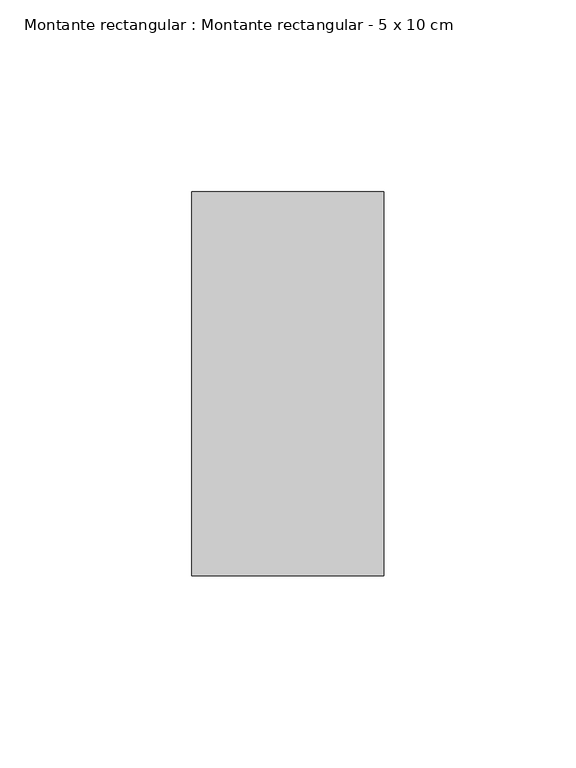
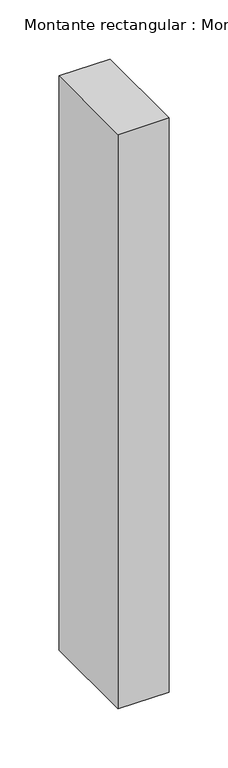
"""IFC4 building model written with IfcOpenShell, lengths in millimetres: member geometry, Montante rectangular : Montante rectangular - 5 x 10 cm."""

import ifcopenshell
import ifcopenshell.guid

model = None  # the IFC model being written
_history = None  # IfcOwnerHistory: only IFC2X3 demands one
_inside = {}  # id of a spatial element -> (the spatial element, [elements in it])
_under = {}  # id of a project, library or spatial element -> (it, [spatial elements below it])
_declared = {}  # id of a project -> (the project, [libraries it declares])
_typed = {}  # id of a type object -> (the type object, [elements of that type])
_made_of = {}  # id of a material, layer set ... -> (it, [elements and type objects made of it])


def new_model(schema):
    """Start an empty IFC model of exactly this schema.

    Asked for "IFC4X3", IfcOpenShell would pick the latest addendum, in which some entities
    have other attributes; the version numbers below select the first issue.
    IFC2X3 requires an IfcOwnerHistory on every rooted entity: one is made here for all.
    """
    global model, _history
    if schema == "IFC4X3":
        model = ifcopenshell.file(schema_version=(4, 3, 0, 0))
    else:
        model = ifcopenshell.file(schema=schema)
    _inside.clear()
    _under.clear()
    _declared.clear()
    _typed.clear()
    _made_of.clear()
    _history = None
    if model.schema == "IFC2X3":
        org = make("IfcOrganization", Name="unknown")
        user = make(
            "IfcPersonAndOrganization",
            ThePerson=make("IfcPerson", FamilyName="unknown"),
            TheOrganization=org,
        )
        app = make(
            "IfcApplication",
            ApplicationDeveloper=org,
            Version="unknown",
            ApplicationFullName="unknown",
            ApplicationIdentifier="unknown",
        )
        _history = make(
            "IfcOwnerHistory",
            OwningUser=user,
            OwningApplication=app,
            ChangeAction="ADDED",
            CreationDate=0,
        )
    return model


def make(cls, **values):
    """One entity of the class cls with the attributes given. An attribute that is None is left unset."""
    return model.create_entity(
        cls, **{name: value for name, value in values.items() if value is not None}
    )


def rooted(cls, **values):
    """An entity with a GlobalId (a new one), such as an element, a storey or a relation."""
    return make(cls, GlobalId=ifcopenshell.guid.new(), OwnerHistory=_history, **values)


def si_unit(unit_type, name, prefix=None):
    """IfcSIUnit, for example si_unit("LENGTHUNIT", "METRE", prefix="MILLI")."""
    return make("IfcSIUnit", UnitType=unit_type, Prefix=prefix, Name=name)


def assignment(units):
    """IfcUnitAssignment: the units of a project."""
    return None if units is None else make("IfcUnitAssignment", Units=units)


def point(xyz):
    """IfcCartesianPoint."""
    return None if xyz is None else make("IfcCartesianPoint", Coordinates=xyz)


def direction(xyz):
    """IfcDirection."""
    return None if xyz is None else make("IfcDirection", DirectionRatios=xyz)


def frame(location, z_axis=None, x_axis=None):
    """IfcAxis2Placement3D, a coordinate frame: its origin and axes. An axis left out is left unset."""
    return make(
        "IfcAxis2Placement3D",
        Location=point(location),
        Axis=direction(z_axis),
        RefDirection=direction(x_axis),
    )


def origin():
    """The frame at (0, 0, 0) with its axes left unset."""
    return frame((0.0, 0.0, 0.0))


def place(relative_to, where):
    """IfcLocalPlacement: puts the frame where relative to a parent placement (None: the world)."""
    return make(
        "IfcLocalPlacement", PlacementRelTo=relative_to, RelativePlacement=where
    )


def context(
    kind, dimensions, precision=None, world=None, true_north=None, identifier=None
):
    """IfcGeometricRepresentationContext, for example the 3D "Model" context."""
    return make(
        "IfcGeometricRepresentationContext",
        ContextIdentifier=identifier,
        ContextType=kind,
        CoordinateSpaceDimension=dimensions,
        Precision=precision,
        WorldCoordinateSystem=world,
        TrueNorth=true_north,
    )


def project(units=None, contexts=None):
    """IfcProject with its units and contexts."""
    return rooted(
        "IfcProject",
        Name="project",
        RepresentationContexts=contexts,
        UnitsInContext=assignment(units),
    )


def spatial(cls, under=None, at=None, **own):
    """A site, building, storey or space (cls), placed at a placement, below another one or the project."""
    s = rooted(cls, ObjectPlacement=at, **own)
    if under is not None:
        _under.setdefault(under.id(), (under, []))[1].append(s)
    return s


def polyline(points):
    """IfcPolyline through the points."""
    return make("IfcPolyline", Points=[point(p) for p in points])


def outline(outer, holes=None, kind="AREA"):
    """IfcArbitraryClosedProfileDef: a profile drawn as a closed curve; with holes, ...WithVoids."""
    if holes is None:
        return make("IfcArbitraryClosedProfileDef", ProfileType=kind, OuterCurve=outer)
    return make(
        "IfcArbitraryProfileDefWithVoids",
        ProfileType=kind,
        OuterCurve=outer,
        InnerCurves=holes,
    )


def extrude(swept, where, along, depth):
    """IfcExtrudedAreaSolid: the profile swept, set in the frame where, extruded along a direction by depth."""
    return make(
        "IfcExtrudedAreaSolid",
        SweptArea=swept,
        Position=where,
        ExtrudedDirection=direction(along),
        Depth=depth,
    )


def shape(context_of_items, identifier, shape_type, items):
    """IfcShapeRepresentation: the items that make up one representation, for example the "Body"."""
    return make(
        "IfcShapeRepresentation",
        ContextOfItems=context_of_items,
        RepresentationIdentifier=identifier,
        RepresentationType=shape_type,
        Items=items,
    )


def source(mapping_origin, context_of_items, identifier, shape_type, items):
    """IfcRepresentationMap: a shape defined once, which mapped items show again and again."""
    return make(
        "IfcRepresentationMap",
        MappingOrigin=mapping_origin,
        MappedRepresentation=shape(context_of_items, identifier, shape_type, items),
    )


def transform(
    local_origin,
    x_axis=None,
    y_axis=None,
    z_axis=None,
    scale=None,
    scale2=None,
    scale3=None,
    uniform=True,
):
    """IfcCartesianTransformationOperator3D, or its non-uniform kind. x_axis, y_axis, z_axis: its Axis1, 2, 3."""
    if uniform:
        return make(
            "IfcCartesianTransformationOperator3D",
            Axis1=direction(x_axis),
            Axis2=direction(y_axis),
            LocalOrigin=point(local_origin),
            Scale=scale,
            Axis3=direction(z_axis),
        )
    return make(
        "IfcCartesianTransformationOperator3DnonUniform",
        Axis1=direction(x_axis),
        Axis2=direction(y_axis),
        LocalOrigin=point(local_origin),
        Scale=scale,
        Axis3=direction(z_axis),
        Scale2=scale2,
        Scale3=scale3,
    )


def mapped(mapping_source, mapping_target):
    """IfcMappedItem: shows the shape of a source again, moved by a transform."""
    return make(
        "IfcMappedItem", MappingSource=mapping_source, MappingTarget=mapping_target
    )


def made_of(thing, what):
    """Note that an element or type object is made of a material, layer set ...; save() writes the relation."""
    if what is not None:
        _made_of.setdefault(what.id(), (what, []))[1].append(thing)
    return thing


def element(
    cls,
    number,
    at=None,
    inside=None,
    cuts=None,
    type_object=None,
    material=None,
    context=None,
    identifier="Body",
    shape_type=None,
    held_by="IfcProductDefinitionShape",
    body=None,
    shapes=None,
    **own,
):
    """One element of the class cls, such as IfcWall. Its Tag is "e" and its number.

    at: its placement. inside: the storey or other place that contains it. cuts: it is an
    opening in that element (IfcRelVoidsElement). A single representation is given by context,
    identifier, shape_type and body (its items); several are given by shapes. held_by: the class
    of the entity that holds the representations. save() writes the other relations.
    """
    e = rooted(cls, Tag="e%d" % number, ObjectPlacement=at, **own)
    if body is not None:
        shapes = [shape(context, identifier, shape_type, body)]
    if shapes is not None:
        e.Representation = make(held_by, Representations=shapes)
    if inside is not None:
        _inside.setdefault(inside.id(), (inside, []))[1].append(e)
    if cuts is not None:
        rooted(
            "IfcRelVoidsElement", RelatingBuildingElement=cuts, RelatedOpeningElement=e
        )
    if type_object is not None:
        _typed.setdefault(type_object.id(), (type_object, []))[1].append(e)
    return made_of(e, material)


def aggregate(whole, parts):
    """IfcRelAggregates: a whole, such as a stair, and the parts it consists of."""
    return rooted("IfcRelAggregates", RelatingObject=whole, RelatedObjects=parts)


def save(model, path):
    """Write the relations noted so far, then the file.

    IfcRelAggregates (storeys below a building ...), IfcRelContainedInSpatialStructure (elements
    in a storey), IfcRelDefinesByType, IfcRelAssociatesMaterial and IfcRelDeclares: one each for
    every whole, place, type object, material and project.
    """
    for whole, parts in _under.values():
        aggregate(whole, parts)
    for where, things in _inside.values():
        rooted(
            "IfcRelContainedInSpatialStructure",
            RelatedElements=things,
            RelatingStructure=where,
        )
    for kind, things in _typed.values():
        rooted("IfcRelDefinesByType", RelatedObjects=things, RelatingType=kind)
    for what, things in _made_of.values():
        rooted("IfcRelAssociatesMaterial", RelatedObjects=things, RelatingMaterial=what)
    for by, libraries in _declared.values():
        rooted("IfcRelDeclares", RelatingContext=by, RelatedDefinitions=libraries)
    model.write(path)


def montante_rectangular_montante_rectangular_5_x_10_cm_d6db76d4(model_context):
    return source(origin(), model_context, "Body", "SweptSolid", [
        extrude(outline(polyline([(25.0, 50.0), (25.0, -50.0), (-25.0, -50.0), (-25.0, 50.0), (25.0, 50.0)])), frame((0.0, 0.0, -593.6491509), z_axis=(0.0, 0.0, 1.0), x_axis=(1.0, 0.0, 0.0)), (0.0, 0.0, 1.0), 593.6491509),
    ])


if __name__ == "__main__":
    model = new_model("IFC4")
    model_context = context("Model", 3, world=origin())
    ifc_project = project(units=[si_unit("LENGTHUNIT", "METRE", prefix="MILLI")], contexts=[model_context])
    site = spatial("IfcSite", under=ifc_project)
    building = spatial("IfcBuilding", under=site)
    placement = place(None, origin())
    montante_rectangular_montante_rectangular_5_x_10_cm_shape = montante_rectangular_montante_rectangular_5_x_10_cm_d6db76d4(model_context)
    element("IfcMember", 1, ObjectType="Montante rectangular : Montante rectangular - 5 x 10 cm", at=placement, inside=building, context=model_context, shape_type="MappedRepresentation", body=[
        mapped(montante_rectangular_montante_rectangular_5_x_10_cm_shape, transform((0.0, 0.0, 0.0), x_axis=(1.0, 0.0, 0.0), y_axis=(0.0, 1.0, 0.0), z_axis=(0.0, 0.0, 1.0))),
    ])
    save(model, "model.ifc")
